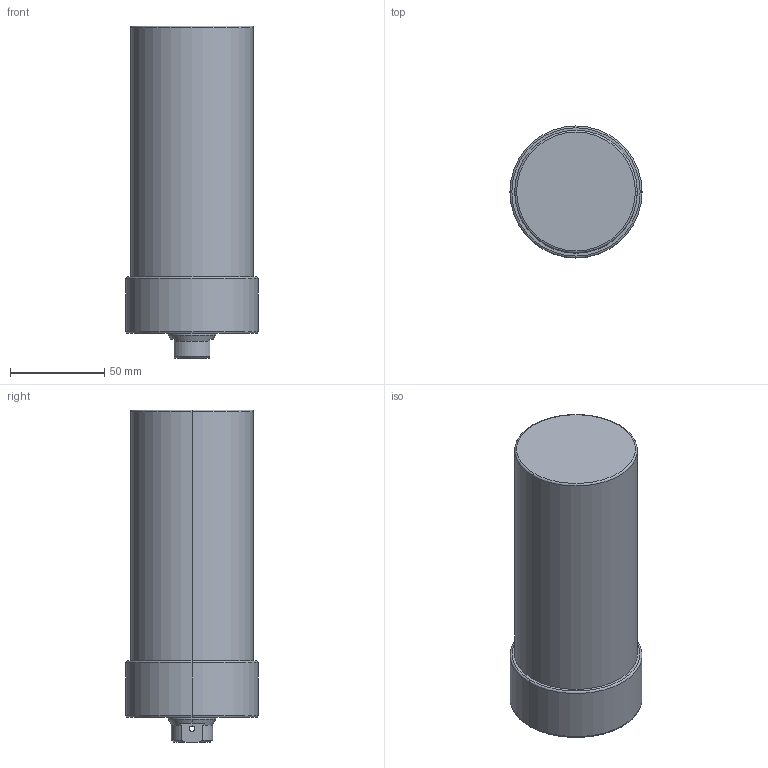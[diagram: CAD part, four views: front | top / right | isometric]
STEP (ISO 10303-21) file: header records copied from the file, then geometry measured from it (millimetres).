
FILE_DESCRIPTION (( 'STEP AP203' ), '1' );
FILE_NAME ('CLLU-065GB-100.STEP', '2020-01-16T02:07:13', ( '' ), ( '' ), 'SwSTEP 2.0', 'SolidWorks 2015', '' );
FILE_SCHEMA (( 'CONFIG_CONTROL_DESIGN' ));
Length unit declared in the file: millimetre
Products named in the file (1): CLLU-065GB-100
Bounding box: 70 x 70 x 176 mm (x, y, z)
Volume: 557159.8 mm3; surface area: 44240.3 mm2
Topology: 1 solids, 1 shells, 66 faces, 154 edges, 87 vertices
Faces by surface type: cylinder 26, cone 24, plane 10, torus 6
Entity records: 2001 total; most frequent: CARTESIAN_POINT 430, DIRECTION 342, ORIENTED_EDGE 288, EDGE_CURVE 144, AXIS2_PLACEMENT_3D 143, VERTEX_POINT 87, EDGE_LOOP 77, CIRCLE 76
